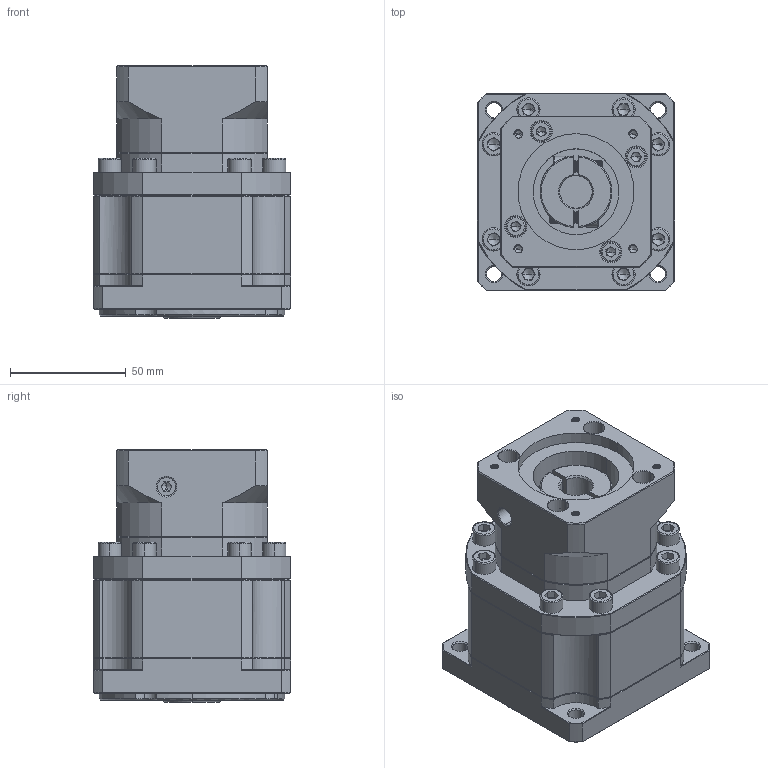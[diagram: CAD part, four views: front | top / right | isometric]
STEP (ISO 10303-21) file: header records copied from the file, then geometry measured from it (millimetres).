
FILE_DESCRIPTION (( 'STEP AP214' ), '1' );
FILE_NAME ('ZB90-K15-L2-14-50-70-M4.STEP', '2022-05-02T15:22:43', ( '' ), ( 'Microsoft' ), 'SwSTEP 2.0', 'SolidWorks 2016', '' );
FILE_SCHEMA (( 'AUTOMOTIVE_DESIGN' ));
Length unit declared in the file: millimetre
Products named in the file (1): ZB90-K15-L2-14-50-70-M4
Bounding box: 85 x 85 x 109 mm (x, y, z)
Volume: 525320.7 mm3; surface area: 74793.4 mm2
Topology: 6 solids, 6 shells, 2021 faces, 5305 edges, 3374 vertices
Faces by surface type: plane 998, cylinder 367, bspline 318, cone 316, torus 22
Entity records: 100994 total; most frequent: CARTESIAN_POINT 31395, ORIENTED_EDGE 10522, DIRECTION 8756, EDGE_CURVE 5261, VERTEX_POINT 3374, VECTOR 3258, LINE 3258, AXIS2_PLACEMENT_3D 2749
